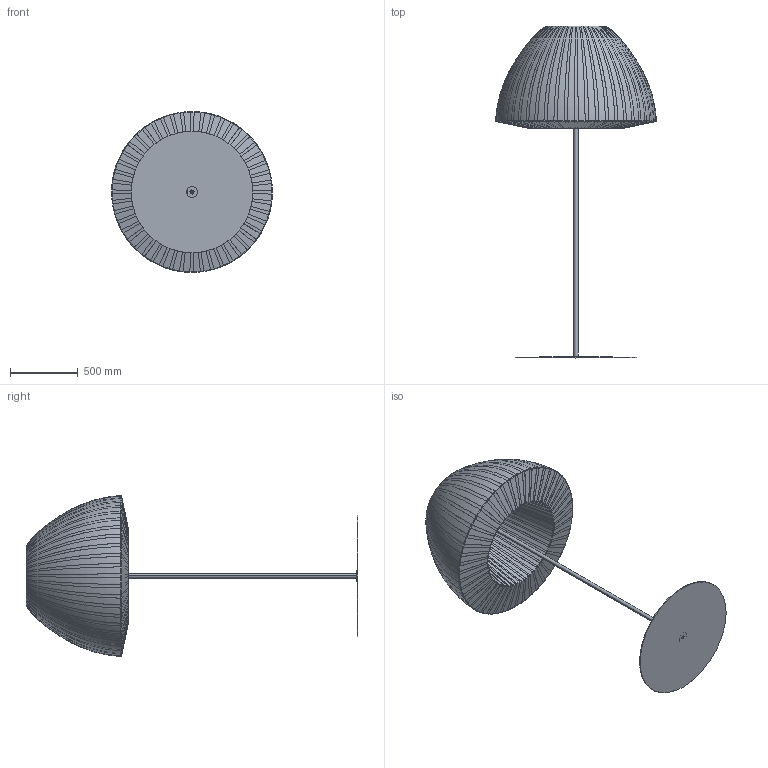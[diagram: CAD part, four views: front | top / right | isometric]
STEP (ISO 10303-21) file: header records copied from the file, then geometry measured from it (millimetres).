
FILE_DESCRIPTION (( 'STEP AP203' ), '1' );
FILE_NAME ('PTBEL118E27-PER 3D.STEP', '2025-06-25T10:22:25', ( '' ), ( '' ), 'SwSTEP 2.0', 'SolidWorks 2024', '' );
FILE_SCHEMA (( 'CONFIG_CONTROL_DESIGN' ));
Length unit declared in the file: millimetre
Products named in the file (7): WSCM2C0188-0100-00; PTBEL118E27-PER 3D; WSCM2J0131-0100-00; WSCM2D0059-0100-00; MPTBEL118E27; WSCM2C0187-0100-00-I; PSPBELL118
Assembly tree (6 placements, depth 4):
  PTBEL118E27-PER 3D
    MPTBEL118E27
      WSCM2C0187-0100-00-I
      WSCM2J0131-0100-00
        WSCM2D0059-0100-00
      WSCM2C0188-0100-00
    PSPBELL118
Bounding box: 1189.81 x 2455.2 x 1189.81 mm (x, y, z)
Volume: 10199279.3 mm3; surface area: 13808868.7 mm2
Topology: 51 solids, 51 shells, 903 faces, 2374 edges, 1582 vertices
Faces by surface type: torus 384, cone 196, plane 177, bspline 128, cylinder 18
Entity records: 39662 total; most frequent: CARTESIAN_POINT 15969, DIRECTION 5155, ORIENTED_EDGE 4748, EDGE_CURVE 2374, AXIS2_PLACEMENT_3D 2264, VERTEX_POINT 1582, CIRCLE 1478, EDGE_LOOP 1020
